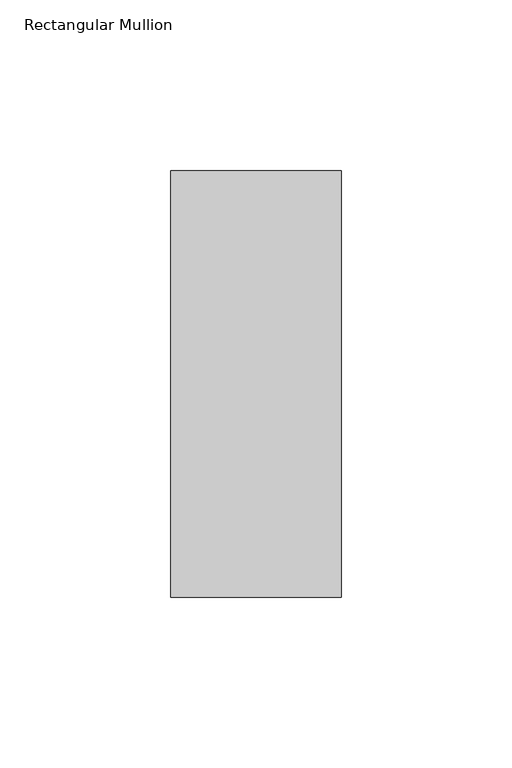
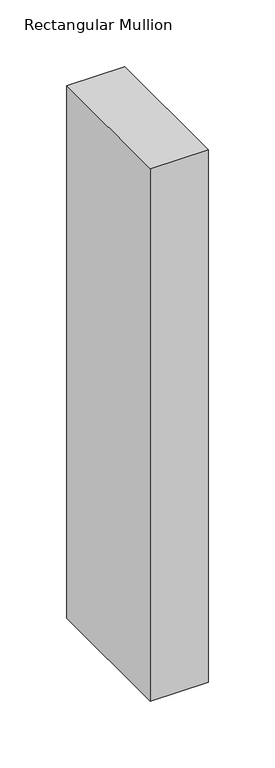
"""IFC4 building model written with IfcOpenShell, lengths in millimetres: member geometry, Rectangular Mullion : DucoSun Cubic Design profile 50x125 for louvre 600."""

from ifc_helpers import new_model, si_unit, frame, origin, place, context, project, spatial, polyline, outline, extrude, source, transform, mapped, element, save


def rectangular_mullion_6b2175c2(model_context):
    return source(origin(), model_context, "Body", "SweptSolid", [
        extrude(outline(polyline([(-50.0, -237.5), (0.0, -237.5), (0.0, -362.5), (-50.0, -362.5), (-50.0, -237.5)])), frame((0.0, 0.0, -486.4), z_axis=(0.0, 0.0, 1.0), x_axis=(1.0, 0.0, 0.0)), (0.0, 0.0, 1.0), 486.4),
    ])


if __name__ == "__main__":
    model = new_model("IFC4")
    model_context = context("Model", 3, world=origin())
    ifc_project = project(units=[si_unit("LENGTHUNIT", "METRE", prefix="MILLI")], contexts=[model_context])
    site = spatial("IfcSite", under=ifc_project)
    building = spatial("IfcBuilding", under=site)
    placement = place(None, origin())
    rectangular_mullion_shape = rectangular_mullion_6b2175c2(model_context)
    element("IfcMember", 1, ObjectType="Rectangular Mullion : DucoSun Cubic Design profile 50x125 for louvre 600", at=placement, inside=building, context=model_context, shape_type="MappedRepresentation", body=[
        mapped(rectangular_mullion_shape, transform((0.0, 0.0, 0.0), x_axis=(1.0, 0.0, 0.0), y_axis=(0.0, 1.0, 0.0), z_axis=(0.0, 0.0, 1.0))),
    ])
    save(model, "model.ifc")
